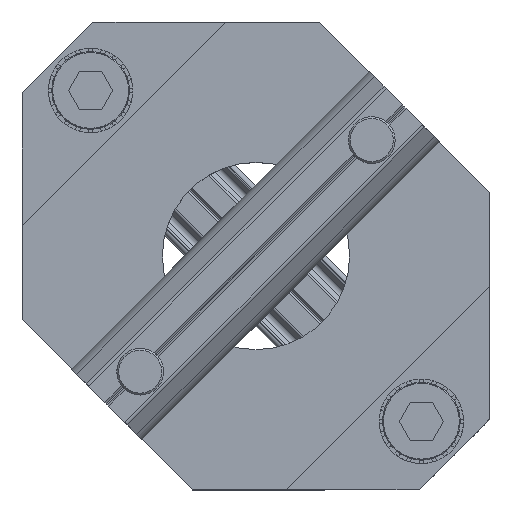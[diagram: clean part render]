
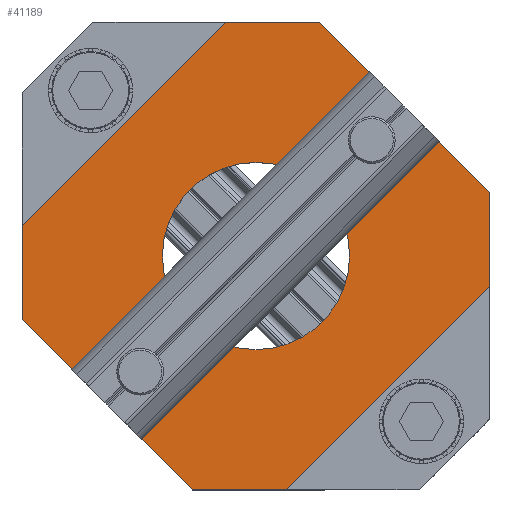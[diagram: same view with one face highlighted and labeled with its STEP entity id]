
A CAD part, top view. The second image highlights one B-rep face of the part: STEP entity #41189.
In plain terms, the highlighted planar face has unit normal (0, 0, 1).
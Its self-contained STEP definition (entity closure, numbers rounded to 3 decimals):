
#46 = ORIENTED_EDGE ( 'NONE', *, *, #37550, .T. ) ;
#131 = CARTESIAN_POINT ( 'NONE',  ( -69.634, 25.9, 14.872 ) ) ;
#792 = VERTEX_POINT ( 'NONE', #131 ) ;
#1028 = ORIENTED_EDGE ( 'NONE', *, *, #27542, .T. ) ;
#1726 = VERTEX_POINT ( 'NONE', #5061 ) ;
#1810 = VERTEX_POINT ( 'NONE', #25935 ) ;
#1980 = EDGE_CURVE ( 'NONE', #41559, #5740, #19107, .T. ) ;
#2410 = EDGE_CURVE ( 'NONE', #1726, #26565, #24565, .T. ) ;
#2721 = ORIENTED_EDGE ( 'NONE', *, *, #2410, .F. ) ;
#2960 = LINE ( 'NONE', #21771, #23950 ) ;
#3042 = CARTESIAN_POINT ( 'NONE',  ( -34.634, 0.9, 14.872 ) ) ;
#3296 = VERTEX_POINT ( 'NONE', #36368 ) ;
#3655 = VERTEX_POINT ( 'NONE', #28618 ) ;
#4152 = ORIENTED_EDGE ( 'NONE', *, *, #14273, .F. ) ;
#4375 = LINE ( 'NONE', #18398, #37511 ) ;
#4454 = DIRECTION ( 'NONE',  ( 1., 0., 0. ) ) ;
#4678 = CARTESIAN_POINT ( 'NONE',  ( -72.008, 10.976, 14.872 ) ) ;
#4954 = EDGE_CURVE ( 'NONE', #792, #30514, #41174, .T. ) ;
#5061 = CARTESIAN_POINT ( 'NONE',  ( -34.634, 22.616, 14.872 ) ) ;
#5740 = VERTEX_POINT ( 'NONE', #32368 ) ;
#5760 = EDGE_CURVE ( 'NONE', #11327, #3655, #9003, .T. ) ;
#6899 = ORIENTED_EDGE ( 'NONE', *, *, #36083, .F. ) ;
#6918 = CARTESIAN_POINT ( 'NONE',  ( -47.26, 40.825, 14.872 ) ) ;
#7412 = CARTESIAN_POINT ( 'NONE',  ( -34.634, 32.72, 14.872 ) ) ;
#7516 = CARTESIAN_POINT ( 'NONE',  ( -84.634, 50.9, 14.872 ) ) ;
#7557 = DIRECTION ( 'NONE',  ( -0.707, 0.707, 0. ) ) ;
#8092 = EDGE_CURVE ( 'NONE', #5740, #26565, #16298, .T. ) ;
#8205 = PLANE ( 'NONE',  #14347 ) ;
#8852 = DIRECTION ( 'NONE',  ( 1., 0., 0. ) ) ;
#9003 = CIRCLE ( 'NONE', #11453, 2.55 ) ;
#9775 = DIRECTION ( 'NONE',  ( 1., 0., 0. ) ) ;
#9918 = CARTESIAN_POINT ( 'NONE',  ( -47.26, 38.275, 14.872 ) ) ;
#10894 = ORIENTED_EDGE ( 'NONE', *, *, #5760, .F. ) ;
#11168 = VECTOR ( 'NONE', #7557, 1000. ) ;
#11327 = VERTEX_POINT ( 'NONE', #6918 ) ;
#11422 = CARTESIAN_POINT ( 'NONE',  ( -72.008, 13.526, 14.872 ) ) ;
#11453 = AXIS2_PLACEMENT_3D ( 'NONE', #9918, #22598, #9775 ) ;
#12539 = CIRCLE ( 'NONE', #12682, 2.55 ) ;
#12588 = CIRCLE ( 'NONE', #20625, 2.55 ) ;
#12682 = AXIS2_PLACEMENT_3D ( 'NONE', #15549, #28590, #8852 ) ;
#13656 = EDGE_CURVE ( 'NONE', #33633, #41559, #18221, .T. ) ;
#13937 = DIRECTION ( 'NONE',  ( 0., 0., 1. ) ) ;
#14273 = EDGE_CURVE ( 'NONE', #3655, #11327, #15033, .T. ) ;
#14347 = AXIS2_PLACEMENT_3D ( 'NONE', #24595, #21499, #4454 ) ;
#15026 = ORIENTED_EDGE ( 'NONE', *, *, #30835, .F. ) ;
#15033 = CIRCLE ( 'NONE', #23734, 2.55 ) ;
#15175 = FACE_BOUND ( 'NONE', #32416, .T. ) ;
#15549 = CARTESIAN_POINT ( 'NONE',  ( -72.008, 13.526, 14.872 ) ) ;
#15953 = VERTEX_POINT ( 'NONE', #4678 ) ;
#16260 = LINE ( 'NONE', #7412, #11168 ) ;
#16298 = LINE ( 'NONE', #22716, #32550 ) ;
#16541 = VECTOR ( 'NONE', #31832, 1000. ) ;
#16647 = CARTESIAN_POINT ( 'NONE',  ( -59.634, 25.9, 14.872 ) ) ;
#16771 = DIRECTION ( 'NONE',  ( 1., 0., 0. ) ) ;
#16925 = CARTESIAN_POINT ( 'NONE',  ( -56.35, 0.9, 14.872 ) ) ;
#17167 = EDGE_CURVE ( 'NONE', #3296, #20313, #2960, .T. ) ;
#17504 = DIRECTION ( 'NONE',  ( 0., -1., 0. ) ) ;
#18003 = ORIENTED_EDGE ( 'NONE', *, *, #13656, .T. ) ;
#18221 = LINE ( 'NONE', #7516, #19286 ) ;
#18225 = ORIENTED_EDGE ( 'NONE', *, *, #4954, .F. ) ;
#18238 = CIRCLE ( 'NONE', #29366, 10. ) ;
#18398 = CARTESIAN_POINT ( 'NONE',  ( -62.918, 50.9, 14.872 ) ) ;
#18413 = DIRECTION ( 'NONE',  ( 0., 0., 1. ) ) ;
#19107 = LINE ( 'NONE', #33425, #28703 ) ;
#19286 = VECTOR ( 'NONE', #17504, 1000. ) ;
#19333 = DIRECTION ( 'NONE',  ( 1., 0., 0. ) ) ;
#19763 = FACE_BOUND ( 'NONE', #31194, .T. ) ;
#20093 = DIRECTION ( 'NONE',  ( 0.707, -0.707, 0. ) ) ;
#20313 = VERTEX_POINT ( 'NONE', #26231 ) ;
#20327 = CARTESIAN_POINT ( 'NONE',  ( -84.634, 19.08, 14.872 ) ) ;
#20625 = AXIS2_PLACEMENT_3D ( 'NONE', #11422, #18413, #31145 ) ;
#21499 = DIRECTION ( 'NONE',  ( 0., 0., 1. ) ) ;
#21565 = ORIENTED_EDGE ( 'NONE', *, *, #17167, .T. ) ;
#21771 = CARTESIAN_POINT ( 'NONE',  ( -52.814, 50.9, 14.872 ) ) ;
#22065 = CARTESIAN_POINT ( 'NONE',  ( -34.634, 32.72, 14.872 ) ) ;
#22125 = ORIENTED_EDGE ( 'NONE', *, *, #8092, .T. ) ;
#22598 = DIRECTION ( 'NONE',  ( 0., 0., 1. ) ) ;
#22716 = CARTESIAN_POINT ( 'NONE',  ( -66.454, 0.9, 14.872 ) ) ;
#22888 = DIRECTION ( 'NONE',  ( -0.707, -0.707, 0. ) ) ;
#23385 = CARTESIAN_POINT ( 'NONE',  ( -49.634, 25.9, 14.872 ) ) ;
#23618 = ORIENTED_EDGE ( 'NONE', *, *, #1980, .T. ) ;
#23658 = EDGE_CURVE ( 'NONE', #1810, #15953, #12588, .T. ) ;
#23685 = EDGE_LOOP ( 'NONE', ( #31425, #24936 ) ) ;
#23734 = AXIS2_PLACEMENT_3D ( 'NONE', #40109, #24142, #34075 ) ;
#23771 = EDGE_CURVE ( 'NONE', #15953, #1810, #12539, .T. ) ;
#23950 = VECTOR ( 'NONE', #25012, 1000. ) ;
#24080 = CARTESIAN_POINT ( 'NONE',  ( -84.634, 29.184, 14.872 ) ) ;
#24142 = DIRECTION ( 'NONE',  ( 0., 0., 1. ) ) ;
#24565 = LINE ( 'NONE', #29237, #36249 ) ;
#24595 = CARTESIAN_POINT ( 'NONE',  ( 0., 0., 14.872 ) ) ;
#24936 = ORIENTED_EDGE ( 'NONE', *, *, #23771, .F. ) ;
#25012 = DIRECTION ( 'NONE',  ( -1., 0., 0. ) ) ;
#25935 = CARTESIAN_POINT ( 'NONE',  ( -72.008, 16.076, 14.872 ) ) ;
#26231 = CARTESIAN_POINT ( 'NONE',  ( -62.918, 50.9, 14.872 ) ) ;
#26565 = VERTEX_POINT ( 'NONE', #16925 ) ;
#26634 = CARTESIAN_POINT ( 'NONE',  ( -59.634, 25.9, 14.872 ) ) ;
#27542 = EDGE_CURVE ( 'NONE', #28280, #3296, #16260, .T. ) ;
#27883 = DIRECTION ( 'NONE',  ( 0.707, 0.707, 0. ) ) ;
#28280 = VERTEX_POINT ( 'NONE', #22065 ) ;
#28590 = DIRECTION ( 'NONE',  ( 0., 0., 1. ) ) ;
#28618 = CARTESIAN_POINT ( 'NONE',  ( -47.26, 35.725, 14.872 ) ) ;
#28703 = VECTOR ( 'NONE', #20093, 1000. ) ;
#29237 = CARTESIAN_POINT ( 'NONE',  ( -56.35, 0.9, 14.872 ) ) ;
#29366 = AXIS2_PLACEMENT_3D ( 'NONE', #26634, #13937, #39906 ) ;
#30514 = VERTEX_POINT ( 'NONE', #23385 ) ;
#30835 = EDGE_CURVE ( 'NONE', #33633, #20313, #4375, .T. ) ;
#31145 = DIRECTION ( 'NONE',  ( 1., 0., 0. ) ) ;
#31194 = EDGE_LOOP ( 'NONE', ( #10894, #4152 ) ) ;
#31425 = ORIENTED_EDGE ( 'NONE', *, *, #23658, .F. ) ;
#31832 = DIRECTION ( 'NONE',  ( 0., 1., 0. ) ) ;
#32368 = CARTESIAN_POINT ( 'NONE',  ( -66.454, 0.9, 14.872 ) ) ;
#32416 = EDGE_LOOP ( 'NONE', ( #6899, #18225 ) ) ;
#32550 = VECTOR ( 'NONE', #19333, 1000. ) ;
#33234 = DIRECTION ( 'NONE',  ( 0., 0., 1. ) ) ;
#33320 = LINE ( 'NONE', #3042, #16541 ) ;
#33425 = CARTESIAN_POINT ( 'NONE',  ( -84.634, 19.08, 14.872 ) ) ;
#33517 = EDGE_LOOP ( 'NONE', ( #22125, #2721, #46, #1028, #21565, #15026, #18003, #23618 ) ) ;
#33633 = VERTEX_POINT ( 'NONE', #24080 ) ;
#34075 = DIRECTION ( 'NONE',  ( 1., 0., 0. ) ) ;
#34510 = FACE_BOUND ( 'NONE', #23685, .T. ) ;
#36083 = EDGE_CURVE ( 'NONE', #30514, #792, #18238, .T. ) ;
#36249 = VECTOR ( 'NONE', #22888, 1000. ) ;
#36368 = CARTESIAN_POINT ( 'NONE',  ( -52.814, 50.9, 14.872 ) ) ;
#37511 = VECTOR ( 'NONE', #27883, 1000. ) ;
#37519 = FACE_OUTER_BOUND ( 'NONE', #33517, .T. ) ;
#37550 = EDGE_CURVE ( 'NONE', #1726, #28280, #33320, .T. ) ;
#38310 = AXIS2_PLACEMENT_3D ( 'NONE', #16647, #33234, #16771 ) ;
#39906 = DIRECTION ( 'NONE',  ( 1., 0., 0. ) ) ;
#40109 = CARTESIAN_POINT ( 'NONE',  ( -47.26, 38.275, 14.872 ) ) ;
#41174 = CIRCLE ( 'NONE', #38310, 10. ) ;
#41189 = ADVANCED_FACE ( 'NONE', ( #19763, #34510, #15175, #37519 ), #8205, .T. ) ;
#41559 = VERTEX_POINT ( 'NONE', #20327 ) ;
